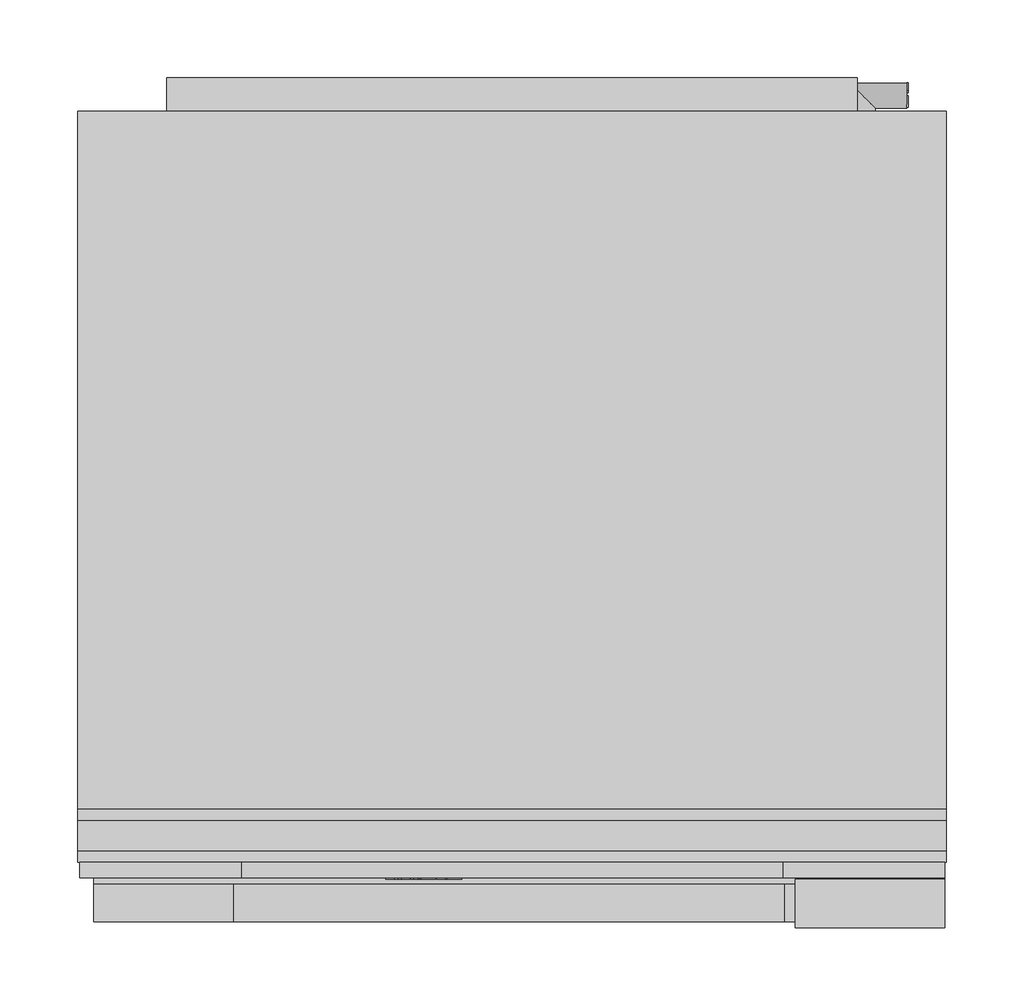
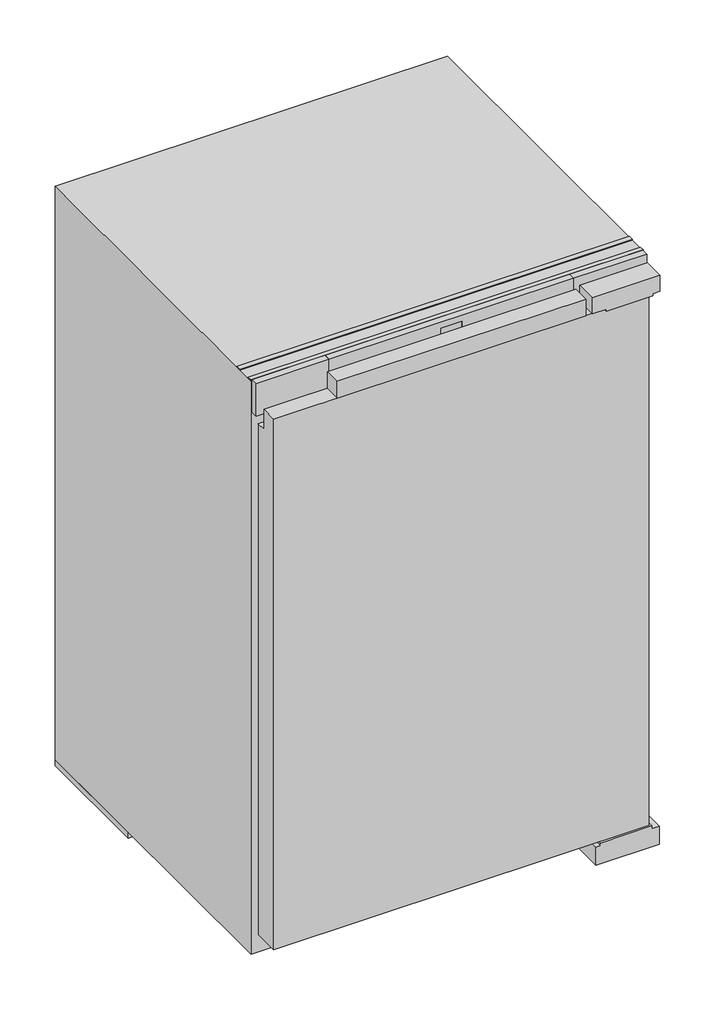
# Not in any storey: 1 proxy.
"""IFC4 building model written with IfcOpenShell, lengths in millimetres."""

from ifc_helpers import new_model, si_unit, origin, place, context, project, spatial, transform, mapped, element, save
from components import specialty_equipment_aa71a83b

model = new_model("IFC4")

# Units and contexts
model_context = context("Model", 3, world=origin())
ifc_project = project(units=[si_unit("LENGTHUNIT", "METRE", prefix="MILLI")], contexts=[model_context])

# Site, building
site = spatial("IfcSite", under=ifc_project)
building = spatial("IfcBuilding", under=site)

# Proxy
placement = place(None, origin())
specialty_equipment_shape = specialty_equipment_aa71a83b(model_context)
element("IfcBuildingElementProxy", 1, Name="11717520_OER_FNS7140E : 37714000_OER_11717520_FNS7140E", ObjectType="11717520_OER_FNS7140E : 37714000_OER_11717520_FNS7140E", at=placement, inside=building, context=model_context, shape_type="MappedRepresentation", body=[
    mapped(specialty_equipment_shape, transform((0.0, 0.0, 0.0), x_axis=(1.0, 0.0, 0.0), y_axis=(0.0, 1.0, 0.0), z_axis=(0.0, 0.0, 1.0))),
])

save(model, "model.ifc")
